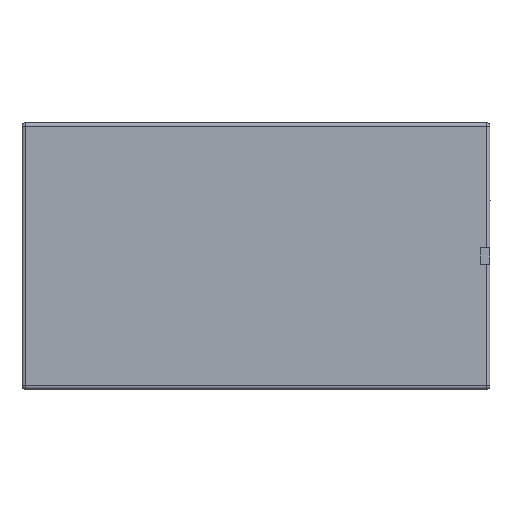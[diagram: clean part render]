
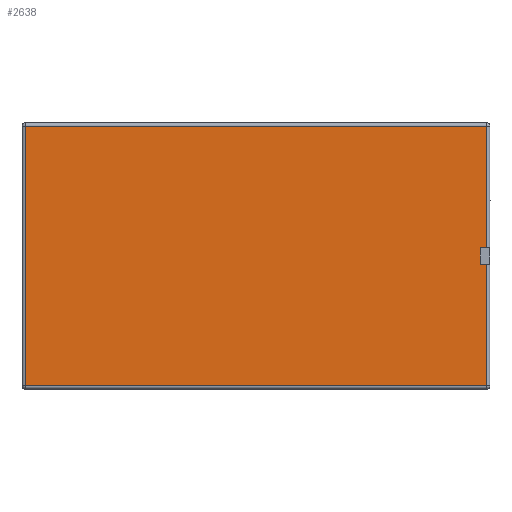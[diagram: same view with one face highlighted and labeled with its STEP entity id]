
A CAD part, left-side view. The second image highlights one B-rep face of the part: STEP entity #2638.
In plain terms, the highlighted planar face has unit normal (-1, 0, 0) as drawn and (0.947, 0, -0.322) by its records, which use the part's own axes.
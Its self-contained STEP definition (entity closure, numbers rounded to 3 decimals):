
#2012=CARTESIAN_POINT('',(2629.526,1614.989,804.284));
#2013=VERTEX_POINT('',#2012);
#2020=CARTESIAN_POINT('',(2629.526,1604.989,804.284));
#2021=VERTEX_POINT('',#2020);
#2022=CARTESIAN_POINT('',(2629.526,1604.989,804.284));
#2023=DIRECTION('',(0.,1.0,0.));
#2024=VECTOR('',#2023,10.0);
#2025=LINE('',#2022,#2024);
#2026=EDGE_CURVE('',#2021,#2013,#2025,.T.);
#2437=CARTESIAN_POINT('',(2621.472,1604.989,780.617));
#2438=VERTEX_POINT('',#2437);
#2446=CARTESIAN_POINT('',(2621.472,1614.989,780.617));
#2447=VERTEX_POINT('',#2446);
#2448=CARTESIAN_POINT('',(2621.472,1614.989,780.617));
#2449=DIRECTION('',(0.,-1.0,0.));
#2450=VECTOR('',#2449,10.0);
#2451=LINE('',#2448,#2450);
#2452=EDGE_CURVE('',#2447,#2438,#2451,.T.);
#2497=CARTESIAN_POINT('',(2629.526,1614.989,804.284));
#2498=DIRECTION('',(-0.322,0.,-0.947));
#2499=VECTOR('',#2498,25.);
#2500=LINE('',#2497,#2499);
#2501=EDGE_CURVE('',#2013,#2447,#2500,.T.);
#2590=CARTESIAN_POINT('',(2625.499,1959.989,792.45));
#2591=DIRECTION('',(-0.947,0.,0.322));
#2592=DIRECTION('',(0.322,0.0,0.947));
#2593=AXIS2_PLACEMENT_3D('',#2590,#2591,#2592);
#2594=PLANE('',#2593);
#2595=ORIENTED_EDGE('',*,*,#2026,.T.);
#2596=ORIENTED_EDGE('',*,*,#2501,.T.);
#2597=ORIENTED_EDGE('',*,*,#2452,.T.);
#2598=CARTESIAN_POINT('',(2561.072,1604.989,603.112));
#2599=VERTEX_POINT('',#2598);
#2600=CARTESIAN_POINT('',(2561.072,1604.989,603.112));
#2601=DIRECTION('',(0.322,0.,0.947));
#2602=VECTOR('',#2601,187.5);
#2603=LINE('',#2600,#2602);
#2604=EDGE_CURVE('',#2599,#2438,#2603,.T.);
#2605=ORIENTED_EDGE('',*,*,#2604,.F.);
#2606=CARTESIAN_POINT('',(2561.072,2314.989,603.112));
#2607=VERTEX_POINT('',#2606);
#2608=CARTESIAN_POINT('',(2561.072,2314.989,603.112));
#2609=DIRECTION('',(0.,-1.0,0.));
#2610=VECTOR('',#2609,710.0);
#2611=LINE('',#2608,#2610);
#2612=EDGE_CURVE('',#2607,#2599,#2611,.T.);
#2613=ORIENTED_EDGE('',*,*,#2612,.F.);
#2614=CARTESIAN_POINT('',(2689.926,2314.989,981.789));
#2615=VERTEX_POINT('',#2614);
#2616=CARTESIAN_POINT('',(2689.926,2314.989,981.789));
#2617=DIRECTION('',(-0.322,0.,-0.947));
#2618=VECTOR('',#2617,400.);
#2619=LINE('',#2616,#2618);
#2620=EDGE_CURVE('',#2615,#2607,#2619,.T.);
#2621=ORIENTED_EDGE('',*,*,#2620,.F.);
#2622=CARTESIAN_POINT('',(2689.926,1604.989,981.789));
#2623=VERTEX_POINT('',#2622);
#2624=CARTESIAN_POINT('',(2689.926,1604.989,981.789));
#2625=DIRECTION('',(0.,1.0,0.));
#2626=VECTOR('',#2625,710.0);
#2627=LINE('',#2624,#2626);
#2628=EDGE_CURVE('',#2623,#2615,#2627,.T.);
#2629=ORIENTED_EDGE('',*,*,#2628,.F.);
#2630=CARTESIAN_POINT('',(2629.526,1604.989,804.284));
#2631=DIRECTION('',(0.322,0.,0.947));
#2632=VECTOR('',#2631,187.5);
#2633=LINE('',#2630,#2632);
#2634=EDGE_CURVE('',#2021,#2623,#2633,.T.);
#2635=ORIENTED_EDGE('',*,*,#2634,.F.);
#2636=EDGE_LOOP('',(#2595,#2596,#2597,#2605,#2613,#2621,#2629,#2635));
#2637=FACE_OUTER_BOUND('',#2636,.T.);
#2638=ADVANCED_FACE('',(#2637),#2594,.F.);
